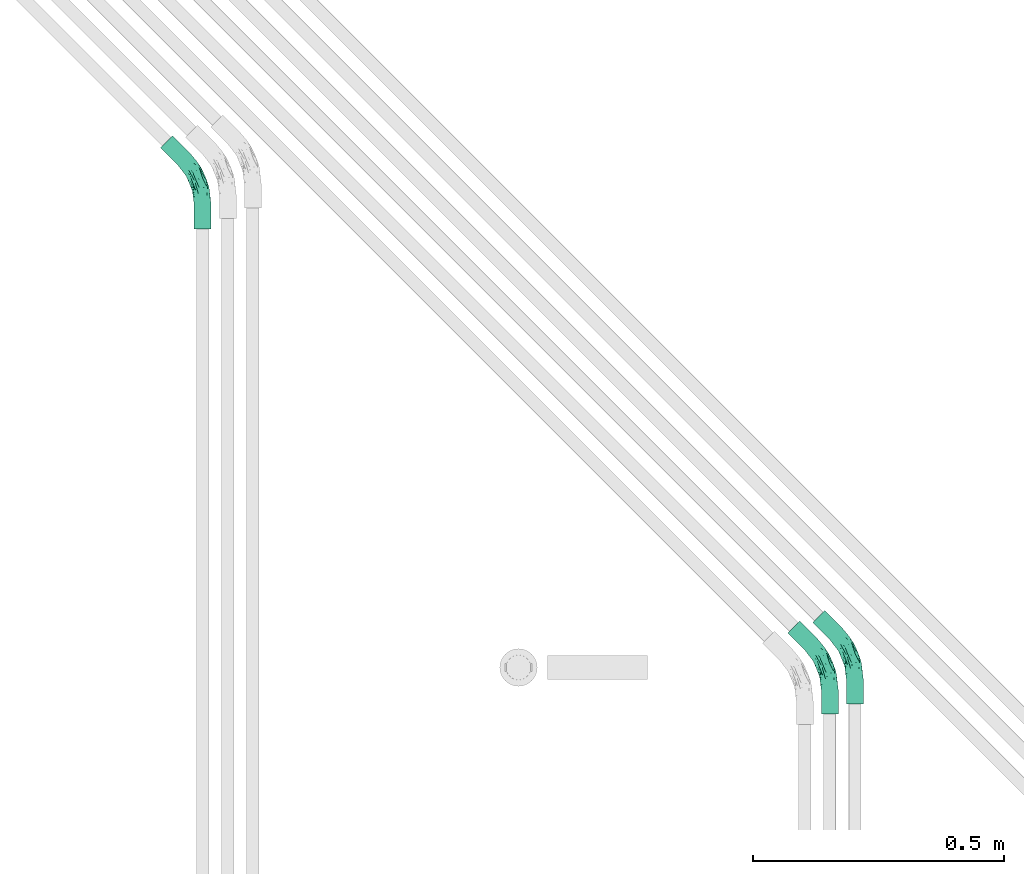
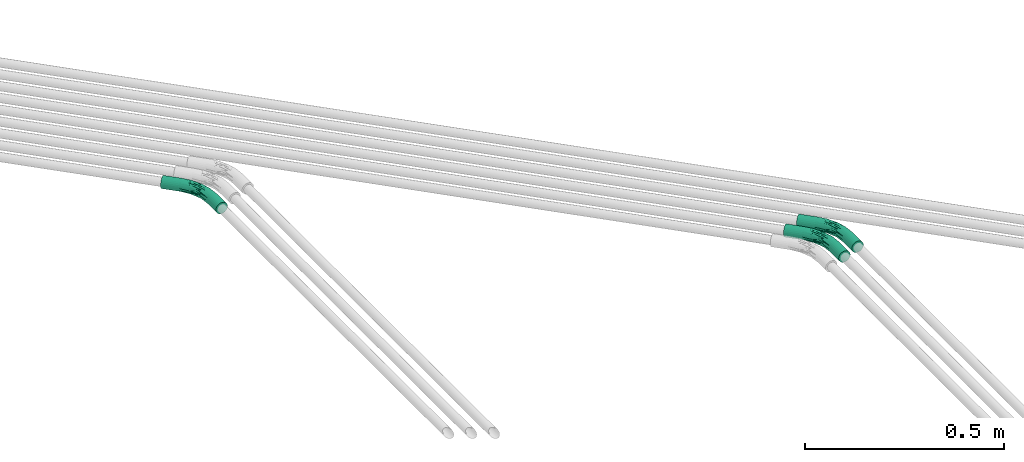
# One storey, part 11 of 51: 3 flow fittings.
"""IFC2X3 building model written with IfcOpenShell, lengths in millimetres."""

from ifc_helpers import new_model, entity, si_unit, converted_unit, derived_unit, direction, frame, origin_with_axes, place, context, subcontext, project, spatial, open_shell, surface_model, source, transform, mapped, type_object, element, save


model = new_model("IFC2X3")

# Units and contexts
model_context = context("Model", 3, precision=0.01, world=frame((0.0, 4.29681676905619e-09, 0.0)), true_north=direction((4.01073788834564e-13, 1.0)))
plan_context = context("Plan", 3, precision=0.01, world=frame((0.0, 4.29681676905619e-09, 0.0)), true_north=direction((4.01073788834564e-13, 1.0)))
body_context = subcontext(model_context, "Body", "Model", "MODEL_VIEW")
ifc_project = project(units=[converted_unit("PLANEANGLEUNIT", "DEGREE", entity("IfcPositiveLengthMeasure", 0.0174532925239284), si_unit("PLANEANGLEUNIT", "RADIAN"), dimensions=[0, 0, 0, 0, 0, 0, 0]), si_unit("AREAUNIT", "SQUARE_METRE"), si_unit("LENGTHUNIT", "METRE", prefix="MILLI"), si_unit("MASSUNIT", "GRAM", prefix="KILO"), si_unit("POWERUNIT", "WATT"), si_unit("PRESSUREUNIT", "PASCAL"), si_unit("FORCEUNIT", "NEWTON", prefix="KILO"), si_unit("ELECTRICVOLTAGEUNIT", "VOLT"), si_unit("ELECTRICCURRENTUNIT", "AMPERE"), si_unit("THERMODYNAMICTEMPERATUREUNIT", "DEGREE_CELSIUS"), si_unit("TIMEUNIT", "SECOND"), si_unit("VOLUMEUNIT", "CUBIC_METRE"), derived_unit("LINEARVELOCITYUNIT", [(si_unit("LENGTHUNIT", "METRE"), 1), (si_unit("TIMEUNIT", "SECOND"), -1)]), derived_unit("VOLUMETRICFLOWRATEUNIT", [(si_unit("VOLUMEUNIT", "CUBIC_METRE"), 1), (si_unit("TIMEUNIT", "SECOND"), -1)]), derived_unit("THERMALTRANSMITTANCEUNIT", [(si_unit("POWERUNIT", "WATT"), 1), (si_unit("THERMODYNAMICTEMPERATUREUNIT", "KELVIN"), -1), (si_unit("AREAUNIT", "SQUARE_METRE"), -1)]), derived_unit("SOUNDPRESSUREUNIT", [(si_unit("PRESSUREUNIT", "PASCAL"), 1)])], contexts=[model_context, plan_context])

# Site, building, storey
site_placement = place(None, frame((0.0, -4.29681676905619e-09, 0.0), z_axis=(0.0, 0.0, 1.0), x_axis=(1.0, 0.0, 0.0)))
site = spatial("IfcSite", under=ifc_project, at=site_placement, Name="ENGM", CompositionType="ELEMENT")
building_placement = place(site_placement, frame((0.0, 4.29681676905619e-09, 0.0), z_axis=(0.0, 0.0, 1.0), x_axis=(1.0, 0.0, 0.0)))
building = spatial("IfcBuilding", under=site, at=building_placement, Name="TI", CompositionType="ELEMENT")
storey_placement = place(building_placement, frame((0.0, 0.0, 210900.0), z_axis=(0.0, 0.0, 1.0), x_axis=(1.0, 0.0, 0.0)))
storey = spatial("IfcBuildingStorey", under=building, at=storey_placement, Name="Nivå F", CompositionType="ELEMENT", Elevation=210900.0)

# Flow fittings
cable_carrier_fitting_type = type_object("IfcCableCarrierFittingType", Name="Trekkerør, glatt bend", PredefinedType="BEND")
shared_shape = source(origin_with_axes(), body_context, "Body", "SurfaceModel", [
    surface_model("IfcShellBasedSurfaceModel", [(-101.90646, 8.46055, -14.6541), (-101.90646, 4.3795, -16.34452), (-101.90646, 0.0, -16.92109), (-101.90646, 14.6541, -8.46055), (-101.90646, -8.46055, -14.6541), (-101.90646, 11.96502, -11.96502), (-101.90646, -16.92109, 0.0), (-101.90646, -16.34452, 4.3795), (-101.90646, -11.96502, -11.96502), (-101.90646, -14.6541, -8.46055), (-101.90646, -4.3795, -16.34452), (-101.90646, -16.34452, -4.3795), (-101.90646, 16.92109, 0.0), (-101.90646, 16.34452, -4.3795), (-101.90646, 16.34452, 4.3795), (-101.90646, 14.6541, 8.46055), (-101.90646, 8.46055, 14.6541), (-101.90646, 11.96502, 11.96502), (-101.90646, 0.0, 16.92109), (-101.90646, 4.3795, 16.34452), (-101.90646, -11.96502, 11.96502), (-101.90646, -8.46055, 14.6541), (-101.90646, -14.6541, 8.46055), (-101.90646, -4.3795, 16.34452), (-54.58849, -16.92109, 0.0), (-54.58849, -16.34452, 4.3795), (-54.58849, -14.6541, 8.46055), (-54.58849, -11.96502, 11.96502), (-54.58849, -8.46055, 14.6541), (-54.58849, -4.3795, 16.34452), (-54.58849, 0.0, 16.92109), (-54.58849, 4.3795, 16.34452), (-54.58849, 8.46055, 14.6541), (-54.58849, 11.96502, 11.96502), (-54.58849, 14.6541, 8.46055), (-54.58849, 16.34452, 4.3795), (-54.58849, 16.92109, 0.0), (-54.58849, 16.34452, -4.3795), (-54.58849, 14.6541, -8.46055), (-54.58849, 11.96502, -11.96502), (-54.58849, 8.46055, -14.6541), (-54.58849, 4.3795, -16.34452), (-54.58849, 0.0, -16.92109), (-54.58849, -4.3795, -16.34452), (-54.58849, -8.46055, -14.6541), (-54.58849, -11.96502, -11.96502), (-54.58849, -14.6541, -8.46055), (-54.58849, -16.34452, -4.3795), (10.9245, -1.31078, 3.47544), (-13.36235, -10.76027, 3.27049), (-16.09967, -11.85394, 0.0), (41.69667, 35.50312, 16.34452), (38.59989, 38.59989, 16.92109), (22.26214, 21.90343, 16.76352), (-19.66365, -2.12805, 15.57779), (-29.58477, -8.16493, 13.36262), (-20.60685, -9.47816, 10.19127), (-34.07223, 17.39409, 6.62821), (-10.25807, 24.76518, 5.65746), (-29.40446, 19.36118, 3.4046), (-3.22837, 7.79397, 16.74683), (-31.22977, -0.25365, 16.76352), (35.50312, 41.69667, 16.34452), (32.61738, 44.5824, 14.6541), (17.47707, 29.1678, 15.66764), (-16.62388, 19.5721, 10.43045), (-25.92736, 13.63005, 13.4985), (5.09993, 25.84703, 13.50914), (-21.17216, 6.44783, 16.79403), (19.76619, 3.00218, 0.0), (-6.56017, 15.83764, 15.71089), (-32.9829, 8.26659, 15.66764), (19.50033, 6.79523, 10.18462), (48.96191, 28.23788, 8.46055), (47.06044, 30.13935, 11.96502), (-0.14544, 0.35113, 13.28643), (-24.85868, 20.8351, 0.0), (44.5824, 32.61738, 14.6541), (26.69306, 15.14611, 13.36262), (8.9424, 34.00903, 7.47137), (8.93562, 35.31889, 4.60583), (25.73601, 8.11548, 6.36012), (-6.07752, -7.50254, 6.29064), (28.23788, 48.96191, 8.46055), (10.0687, 32.56851, 10.38353), (30.13935, 47.06044, 11.96502), (-30.89964, -14.04008, 5.64535), (16.01237, 12.75836, 15.5789), (12.05401, 20.50658, 16.79305), (50.15722, 27.04257, 4.3795), (50.56491, 26.63487, 0.0), (32.88314, 11.79305, 2.69799), (2.8451, 32.31038, 0.0), (26.63487, 50.56491, 0.0), (27.04257, 50.15722, 4.3795), (-32.9829, 8.26659, -15.66764), (16.55602, 18.09298, -16.75967), (38.59989, 38.59989, -16.92109), (41.69667, 35.50312, -16.34452), (30.13935, 47.06044, -11.96502), (32.61738, 44.5824, -14.6541), (8.69552, 27.97131, -13.4985), (-6.56017, 15.83764, -15.71089), (-21.88281, 14.67041, -13.50914), (-31.29267, 18.65579, -4.60583), (-30.37125, 17.72478, -7.47137), (-10.25807, 24.76517, -5.65746), (-1.59965, 3.86188, -15.54749), (17.63726, 9.2923, -13.33594), (-19.1381, -5.92521, -13.33619), (-2.08471, 25.59442, -10.43045), (-30.14906, 15.90977, -10.38353), (-24.73941, 5.56629, -16.79215), (10.41167, 19.53028, -16.79403), (-18.36618, -11.17146, -6.33871), (-28.92763, -11.20296, -10.21852), (-19.67101, 2.27248, -16.75686), (-22.81878, -13.17372, -3.2081), (17.47707, 29.1678, -15.66764), (-30.36783, -4.42984, -15.59506), (24.60567, 18.34093, -15.59506), (35.50312, 41.69667, -16.34452), (7.10167, 34.48251, -3.4046), (27.04257, 50.15722, -4.3795), (44.5824, 32.61738, -14.6541), (47.06044, 30.13935, -11.96502), (28.23788, 48.96191, -8.46055), (11.79322, 36.39219, -6.62821), (1.03493, -2.49855, -10.11808), (48.96191, 28.23788, -8.46055), (28.37661, 12.53324, -10.21852), (20.88626, 5.08744, -6.33871), (25.45054, 6.82009, -3.2081), (2.19574, -5.30098, -3.30061), (50.15722, 27.04257, -4.3795), (60.50143, 83.61607, -4.3795), (72.05875, 72.05875, -16.92109), (68.96197, 75.15552, -16.34452), (66.07624, 78.04126, -14.6541), (63.5982, 80.51929, -11.96502), (61.69674, 82.42076, -8.46055), (75.15552, 68.96197, -16.34452), (80.51929, 63.5982, -11.96502), (78.04126, 66.07624, -14.6541), (83.61607, 60.50143, -4.3795), (82.42076, 61.69674, -8.46055), (83.61607, 60.50143, 4.3795), (84.02377, 60.09373, 0.0), (75.15552, 68.96197, 16.34452), (60.50143, 83.61607, 4.3795), (61.69674, 82.42076, 8.46055), (66.07624, 78.04126, 14.6541), (72.05875, 72.05875, 16.92109), (63.5982, 80.51929, 11.96502), (68.96197, 75.15552, 16.34452), (80.51929, 63.5982, 11.96502), (82.42076, 61.69674, 8.46055), (78.04126, 66.07624, 14.6541), (60.09373, 84.02377, 0.0)], [open_shell([[[0, 1, 2]], [[3, 0, 2]], [[4, 3, 2]], [[5, 0, 3]], [[3, 6, 7]], [[8, 9, 4]], [[2, 10, 4]], [[9, 11, 4]], [[11, 3, 4]], [[3, 11, 6]], [[12, 13, 3]], [[12, 7, 14]], [[14, 7, 15]], [[16, 17, 18]], [[15, 18, 17]], [[18, 19, 16]], [[20, 21, 22]], [[15, 7, 22]], [[23, 18, 21]], [[15, 22, 21]], [[15, 21, 18]], [[3, 7, 12]], [[7, 24, 25]], [[26, 22, 25]], [[21, 27, 28]], [[26, 27, 20]], [[23, 28, 29]], [[24, 7, 6]], [[25, 22, 7]], [[26, 20, 22]], [[27, 21, 20]], [[23, 21, 28]], [[29, 18, 23]], [[29, 30, 18]], [[16, 31, 32]], [[33, 17, 32]], [[14, 34, 35]], [[33, 34, 15]], [[12, 35, 36]], [[31, 19, 30]], [[31, 16, 19]], [[30, 19, 18]], [[32, 17, 16]], [[33, 15, 17]], [[14, 15, 34]], [[35, 12, 14]], [[13, 36, 37]], [[38, 3, 37]], [[0, 39, 40]], [[38, 39, 5]], [[1, 40, 41]], [[36, 13, 12]], [[37, 3, 13]], [[38, 5, 3]], [[39, 0, 5]], [[1, 0, 40]], [[41, 2, 1]], [[41, 42, 2]], [[4, 43, 44]], [[45, 8, 44]], [[11, 46, 47]], [[45, 46, 9]], [[6, 47, 24]], [[43, 10, 42]], [[43, 4, 10]], [[42, 10, 2]], [[44, 8, 4]], [[45, 9, 8]], [[11, 9, 46]], [[47, 6, 11]], [[48, 49, 50]], [[49, 24, 50]], [[51, 52, 53]], [[29, 28, 54]], [[27, 55, 28]], [[56, 27, 26]], [[57, 58, 59]], [[60, 61, 54]], [[61, 30, 29]], [[62, 63, 64]], [[65, 66, 67]], [[31, 30, 68]], [[48, 50, 69]], [[67, 66, 70]], [[33, 32, 66]], [[65, 58, 57]], [[71, 32, 31]], [[72, 73, 74]], [[56, 72, 75]], [[59, 76, 36]], [[74, 77, 78]], [[36, 35, 59]], [[58, 79, 80]], [[81, 72, 82]], [[70, 71, 68]], [[83, 84, 85]], [[25, 49, 86]], [[34, 33, 65]], [[87, 77, 51]], [[54, 87, 60]], [[72, 56, 82]], [[88, 70, 68]], [[72, 81, 73]], [[73, 81, 89]], [[88, 62, 64]], [[78, 72, 74]], [[60, 88, 68]], [[90, 89, 91]], [[48, 81, 82]], [[55, 56, 75]], [[84, 67, 85]], [[59, 92, 76]], [[26, 86, 56]], [[92, 80, 93]], [[75, 78, 87]], [[80, 79, 94]], [[87, 51, 53]], [[70, 64, 67]], [[61, 68, 30]], [[65, 84, 79]], [[60, 53, 88]], [[67, 63, 85]], [[88, 52, 62]], [[65, 33, 66]], [[75, 87, 54]], [[91, 81, 48]], [[66, 32, 71]], [[55, 54, 28]], [[79, 84, 83]], [[67, 84, 65]], [[56, 55, 27]], [[54, 55, 75]], [[87, 78, 77]], [[72, 78, 75]], [[94, 79, 83]], [[65, 79, 58]], [[93, 80, 94]], [[92, 58, 80]], [[54, 61, 29]], [[68, 61, 60]], [[88, 53, 52]], [[87, 53, 60]], [[48, 82, 49]], [[91, 48, 69]], [[90, 91, 69]], [[81, 91, 89]], [[86, 49, 82]], [[24, 49, 25]], [[56, 86, 82]], [[26, 25, 86]], [[68, 71, 31]], [[66, 71, 70]], [[67, 64, 63]], [[88, 64, 70]], [[57, 35, 34]], [[92, 59, 58]], [[35, 57, 59]], [[65, 57, 34]], [[40, 95, 41]], [[96, 97, 98]], [[99, 100, 101]], [[102, 95, 103]], [[76, 104, 36]], [[104, 105, 37]], [[104, 106, 105]], [[107, 108, 109]], [[105, 110, 111]], [[40, 39, 103]], [[110, 99, 101]], [[112, 102, 113]], [[114, 46, 115]], [[116, 113, 96]], [[24, 47, 117]], [[110, 101, 103]], [[114, 47, 46]], [[101, 100, 118]], [[119, 44, 43]], [[112, 41, 95]], [[46, 45, 115]], [[45, 44, 109]], [[107, 119, 116]], [[113, 116, 112]], [[96, 98, 120]], [[113, 121, 97]], [[122, 76, 92]], [[112, 116, 42]], [[93, 123, 122]], [[124, 125, 108]], [[43, 42, 116]], [[110, 126, 99]], [[102, 103, 101]], [[106, 122, 127]], [[100, 121, 118]], [[128, 115, 109]], [[109, 44, 119]], [[127, 110, 106]], [[128, 109, 108]], [[113, 102, 118]], [[120, 98, 124]], [[113, 97, 96]], [[129, 130, 125]], [[107, 120, 108]], [[42, 41, 112]], [[107, 116, 96]], [[128, 130, 131]], [[128, 131, 114]], [[69, 132, 90]], [[69, 133, 132]], [[50, 117, 133]], [[133, 117, 114]], [[133, 69, 50]], [[129, 134, 131]], [[130, 108, 125]], [[122, 92, 93]], [[111, 103, 39]], [[38, 111, 39]], [[105, 111, 38]], [[103, 111, 110]], [[109, 115, 45]], [[114, 115, 128]], [[131, 130, 129]], [[108, 130, 128]], [[37, 105, 38]], [[110, 105, 106]], [[36, 104, 37]], [[76, 106, 104]], [[116, 119, 43]], [[109, 119, 107]], [[108, 120, 124]], [[96, 120, 107]], [[114, 131, 133]], [[132, 133, 131]], [[103, 95, 40]], [[112, 95, 102]], [[113, 118, 121]], [[101, 118, 102]], [[24, 117, 50]], [[47, 114, 117]], [[131, 134, 132]], [[90, 132, 134]], [[127, 123, 126]], [[76, 122, 106]], [[123, 127, 122]], [[110, 127, 126]], [[135, 136, 137]], [[135, 137, 138]], [[139, 140, 135]], [[139, 135, 138]], [[136, 135, 141]], [[141, 142, 143]], [[142, 141, 144]], [[142, 144, 145]], [[141, 135, 144]], [[144, 146, 147]], [[144, 135, 148]], [[135, 149, 150]], [[150, 151, 135]], [[151, 152, 135]], [[151, 150, 153]], [[151, 154, 152]], [[146, 155, 156]], [[155, 146, 157]], [[146, 148, 157]], [[146, 144, 148]], [[152, 148, 135]], [[149, 135, 158]], [[89, 147, 146]], [[156, 73, 146]], [[77, 155, 157]], [[156, 155, 74]], [[51, 157, 148]], [[147, 89, 90]], [[146, 73, 89]], [[156, 74, 73]], [[155, 77, 74]], [[51, 77, 157]], [[148, 52, 51]], [[148, 152, 52]], [[63, 154, 151]], [[153, 85, 151]], [[94, 150, 149]], [[153, 150, 83]], [[93, 149, 158]], [[154, 62, 152]], [[154, 63, 62]], [[152, 62, 52]], [[151, 85, 63]], [[153, 83, 85]], [[94, 83, 150]], [[149, 93, 94]], [[93, 158, 135]], [[140, 123, 135]], [[138, 137, 121]], [[139, 138, 99]], [[126, 140, 139]], [[140, 126, 123]], [[123, 93, 135]], [[99, 138, 100]], [[100, 138, 121]], [[137, 97, 121]], [[99, 126, 139]], [[137, 136, 97]], [[124, 141, 143]], [[142, 125, 143]], [[134, 145, 144]], [[142, 145, 129]], [[90, 144, 147]], [[141, 98, 136]], [[141, 124, 98]], [[136, 98, 97]], [[143, 125, 124]], [[142, 129, 125]], [[134, 129, 145]], [[144, 90, 134]]])]),
])
for number, where, z_axis, x_axis, name in (
    (1, (610024.59, 696057.5126, -56.7999999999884), (0.0, 0.0, 1.0), (0.0, 1.0, 0.0), "Trekkerør, glatt bend"),
    (2, (609974.59, 696036.80192, -56.7999999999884), (0.0, 0.0, 1.0), (0.0, 1.0, 0.0), "Trekkerør, glatt bend"),
    (3, (608724.59, 697003.95921, -56.7999999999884), (0.0, 0.0, 1.0), (0.0, 1.0, 0.0), "Trekkerør, glatt bend"),
):
    element("IfcFlowFitting", number, at=place(storey_placement, frame(where, z_axis=z_axis, x_axis=x_axis)), inside=storey, type_object=cable_carrier_fitting_type, Name=name, context=body_context, shape_type="MappedRepresentation", body=[
        mapped(shared_shape, transform((0.0, 0.0, 0.0), scale=1.0)),
    ])

save(model, "model.ifc")
